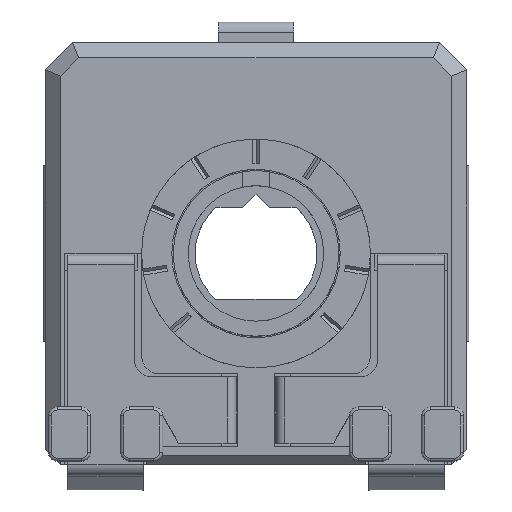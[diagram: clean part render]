
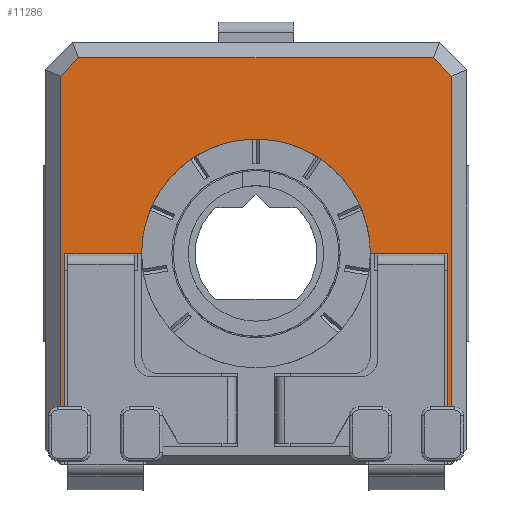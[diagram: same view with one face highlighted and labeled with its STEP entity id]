
A CAD part, top view. The second image highlights one B-rep face of the part: STEP entity #11286.
In plain terms, the highlighted planar face has unit normal (0, 0, 1).
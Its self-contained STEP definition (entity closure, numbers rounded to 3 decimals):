
#361=CIRCLE('',#12098,3.8);
#973=FACE_OUTER_BOUND('',#1553,.T.);
#1553=EDGE_LOOP('',(#9519,#9520,#9521,#9522,#9523,#9524,#9525,#9526,#9527,
#9528,#9529,#9530));
#2007=LINE('',#16157,#3291);
#2075=LINE('',#16410,#3359);
#2315=LINE('',#17139,#3599);
#2318=LINE('',#17144,#3602);
#2543=LINE('',#17704,#3827);
#2576=LINE('',#17831,#3860);
#2799=LINE('',#18378,#4083);
#2800=LINE('',#18381,#4084);
#2801=LINE('',#18382,#4085);
#2802=LINE('',#18385,#4086);
#2803=LINE('',#18386,#4087);
#3291=VECTOR('',#13011,10.);
#3359=VECTOR('',#13293,10.);
#3599=VECTOR('',#13805,10.);
#3602=VECTOR('',#13810,10.);
#3827=VECTOR('',#14183,10.);
#3860=VECTOR('',#14258,10.);
#4083=VECTOR('',#14775,10.);
#4084=VECTOR('',#14778,10.);
#4085=VECTOR('',#14779,10.);
#4086=VECTOR('',#14782,10.);
#4087=VECTOR('',#14783,10.);
#4503=VERTEX_POINT('',#15965);
#4558=VERTEX_POINT('',#16156);
#4635=VERTEX_POINT('',#16407);
#4636=VERTEX_POINT('',#16409);
#4683=VERTEX_POINT('',#16563);
#4684=VERTEX_POINT('',#16565);
#4832=VERTEX_POINT('',#17135);
#4833=VERTEX_POINT('',#17137);
#4998=VERTEX_POINT('',#17700);
#5024=VERTEX_POINT('',#17830);
#5155=VERTEX_POINT('',#18380);
#5156=VERTEX_POINT('',#18384);
#5703=EDGE_CURVE('',#4558,#4503,#2007,.T.);
#5829=EDGE_CURVE('',#4636,#4635,#2075,.T.);
#6128=EDGE_CURVE('',#4833,#4832,#2315,.T.);
#6131=EDGE_CURVE('',#4832,#4635,#2318,.T.);
#6377=EDGE_CURVE('',#4558,#4998,#2543,.T.);
#6422=EDGE_CURVE('',#4998,#5024,#2576,.T.);
#6672=EDGE_CURVE('',#5024,#4833,#2799,.T.);
#6673=EDGE_CURVE('',#4503,#5155,#2800,.T.);
#6674=EDGE_CURVE('',#5155,#4684,#2801,.T.);
#6675=EDGE_CURVE('',#4684,#4683,#361,.T.);
#6676=EDGE_CURVE('',#4683,#5156,#2802,.T.);
#6677=EDGE_CURVE('',#5156,#4636,#2803,.T.);
#9519=ORIENTED_EDGE('',*,*,#5703,.T.);
#9520=ORIENTED_EDGE('',*,*,#6673,.T.);
#9521=ORIENTED_EDGE('',*,*,#6674,.T.);
#9522=ORIENTED_EDGE('',*,*,#6675,.T.);
#9523=ORIENTED_EDGE('',*,*,#6676,.T.);
#9524=ORIENTED_EDGE('',*,*,#6677,.T.);
#9525=ORIENTED_EDGE('',*,*,#5829,.T.);
#9526=ORIENTED_EDGE('',*,*,#6131,.F.);
#9527=ORIENTED_EDGE('',*,*,#6128,.F.);
#9528=ORIENTED_EDGE('',*,*,#6672,.F.);
#9529=ORIENTED_EDGE('',*,*,#6422,.F.);
#9530=ORIENTED_EDGE('',*,*,#6377,.F.);
#10497=PLANE('',#12097);
#11286=ADVANCED_FACE('',(#973),#10497,.T.);
#12097=AXIS2_PLACEMENT_3D('',#18379,#14776,#14777);
#12098=AXIS2_PLACEMENT_3D('',#18383,#14780,#14781);
#13011=DIRECTION('',(1.,0.,0.));
#13293=DIRECTION('',(1.,0.,0.));
#13805=DIRECTION('',(0.707,-0.707,0.));
#13810=DIRECTION('',(0.,-1.,0.));
#14183=DIRECTION('',(0.,1.,0.));
#14258=DIRECTION('',(0.707,0.707,0.));
#14775=DIRECTION('',(1.,0.,0.));
#14776=DIRECTION('center_axis',(0.,0.,1.));
#14777=DIRECTION('ref_axis',(1.,0.,0.));
#14778=DIRECTION('',(0.,1.,0.));
#14779=DIRECTION('',(1.,0.,0.));
#14780=DIRECTION('center_axis',(0.,0.,-1.));
#14781=DIRECTION('ref_axis',(-1.,0.,0.));
#14782=DIRECTION('',(1.,0.,0.));
#14783=DIRECTION('',(0.,-1.,0.));
#15965=CARTESIAN_POINT('',(-13.817,-7.998,4.4));
#16156=CARTESIAN_POINT('',(-13.967,-7.998,4.4));
#16157=CARTESIAN_POINT('',(-10.217,-7.998,4.4));
#16407=CARTESIAN_POINT('',(-0.967,-7.998,4.4));
#16409=CARTESIAN_POINT('',(-1.117,-7.998,4.4));
#16410=CARTESIAN_POINT('',(-4.017,-7.998,4.4));
#16563=CARTESIAN_POINT('',(-3.667,-2.898,4.4));
#16565=CARTESIAN_POINT('',(-11.267,-2.898,4.4));
#17135=CARTESIAN_POINT('',(-0.967,2.994,4.4));
#17137=CARTESIAN_POINT('',(-1.574,3.602,4.4));
#17139=CARTESIAN_POINT('',(-1.271,3.298,4.4));
#17144=CARTESIAN_POINT('',(-0.967,0.602,4.4));
#17700=CARTESIAN_POINT('',(-13.967,2.994,4.4));
#17704=CARTESIAN_POINT('',(-13.967,-6.398,4.4));
#17830=CARTESIAN_POINT('',(-13.36,3.602,4.4));
#17831=CARTESIAN_POINT('',(-13.663,3.298,4.4));
#18378=CARTESIAN_POINT('',(-10.967,3.602,4.4));
#18379=CARTESIAN_POINT('Origin',(-7.467,-2.898,4.4));
#18380=CARTESIAN_POINT('',(-13.817,-2.898,4.4));
#18381=CARTESIAN_POINT('',(-13.817,-3.173,4.4));
#18382=CARTESIAN_POINT('',(-9.442,-2.898,4.4));
#18383=CARTESIAN_POINT('Origin',(-7.467,-2.898,4.4));
#18384=CARTESIAN_POINT('',(-1.117,-2.898,4.4));
#18385=CARTESIAN_POINT('',(-5.492,-2.898,4.4));
#18386=CARTESIAN_POINT('',(-1.117,-2.898,4.4));
